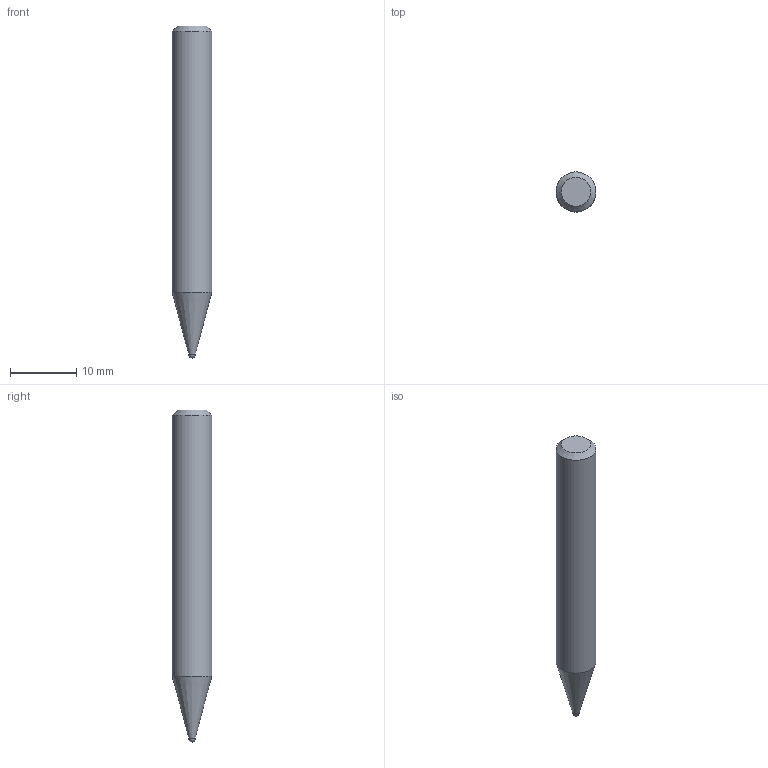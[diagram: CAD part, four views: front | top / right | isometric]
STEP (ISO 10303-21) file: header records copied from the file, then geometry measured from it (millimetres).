
FILE_DESCRIPTION((''),'2;1');
FILE_NAME('C:\Users\nsx150\AppData\Local\Temp\Mastercam 2021\8KJEN3TMUH\TEMP.step','2021-05-21T11:23:40',(''),(''),'STEP Write','Mastercam 2021 ... CNC Software, Inc.','');
FILE_SCHEMA(('AUTOMOTIVE_DESIGN'));
Length unit declared in the file: millimetre
Products named in the file (1): None
Bounding box: 6 x 6 x 50 mm (x, y, z)
Volume: 1232.8 mm3; surface area: 883.6 mm2
Topology: 2 solids, 2 shells, 8 faces, 12 edges, 7 vertices
Faces by surface type: plane 3, cylinder 2, cone 2, sphere 1
Full cylindrical faces by diameter (mm): 1 x1, 6 x1
Entity records: 190 total; most frequent: DIRECTION 32, CARTESIAN_POINT 22, AXIS2_PLACEMENT_3D 16, ORIENTED_EDGE 12, EDGE_LOOP 12, STYLED_ITEM 11, ADVANCED_FACE 8, VERTEX_POINT 6
